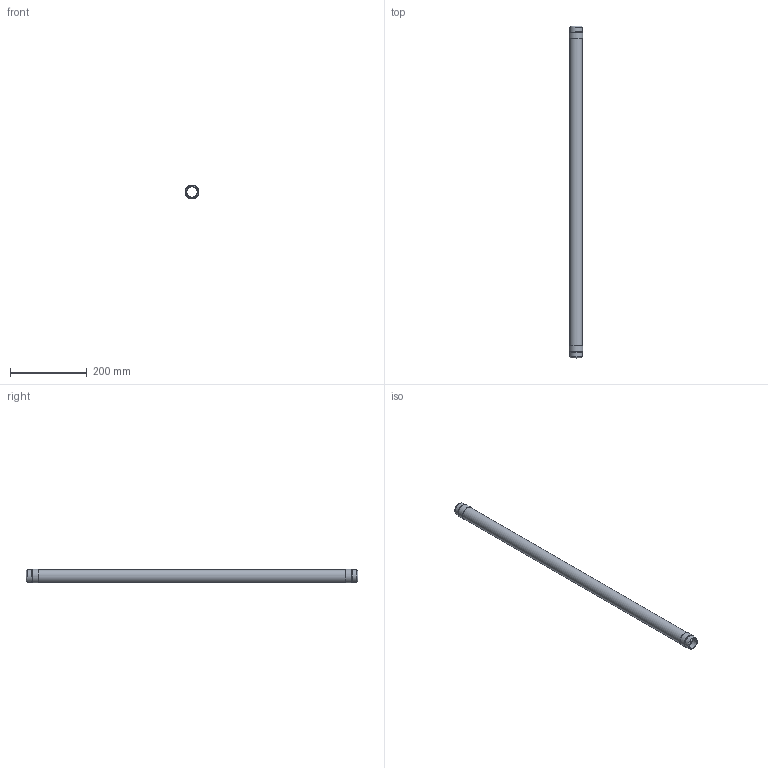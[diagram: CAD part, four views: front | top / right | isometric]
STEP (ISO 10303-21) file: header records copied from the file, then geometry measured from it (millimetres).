
FILE_DESCRIPTION(/* description */ (''),/* implementation_level */ '2;1');
FILE_NAME(/* name */ 'C:\001_Work\Designs\CSAWN\CSAWN-1x34.125.stp',/* time_stamp */ '2016-06-04T16:44:15-04:00',/* author */ ('rramoutar'),/* organization */ ('Mason Industries Inc.'),/* preprocessor_version */ 'ST-DEVELOPER v15.6',/* originating_system */ 'Autodesk Inventor 2015',/* authorisation */ '');
FILE_SCHEMA (('CONFIG_CONTROL_DESIGN'));
Length unit declared in the file: inch
Products named in the file (1): CSAWN-1x34.125
Bounding box: 36.01 x 866.77 x 36.01 mm (x, y, z)
Volume: 40309.8 mm3; surface area: 189689.9 mm2
Topology: 5 solids, 5 shells, 24 faces, 40 edges, 26 vertices
Faces by surface type: cylinder 10, plane 10, cone 4
Full cylindrical faces by diameter (mm): 26.645 x2, 33.02 x1, 33.401 x2, 33.63 x3, 36.011 x2
Entity records: 564 total; most frequent: DIRECTION 98, CARTESIAN_POINT 73, AXIS2_PLACEMENT_3D 49, EDGE_LOOP 48, ORIENTED_EDGE 48, STYLED_ITEM 29, FACE_BOUND 24, FACE_OUTER_BOUND 24
